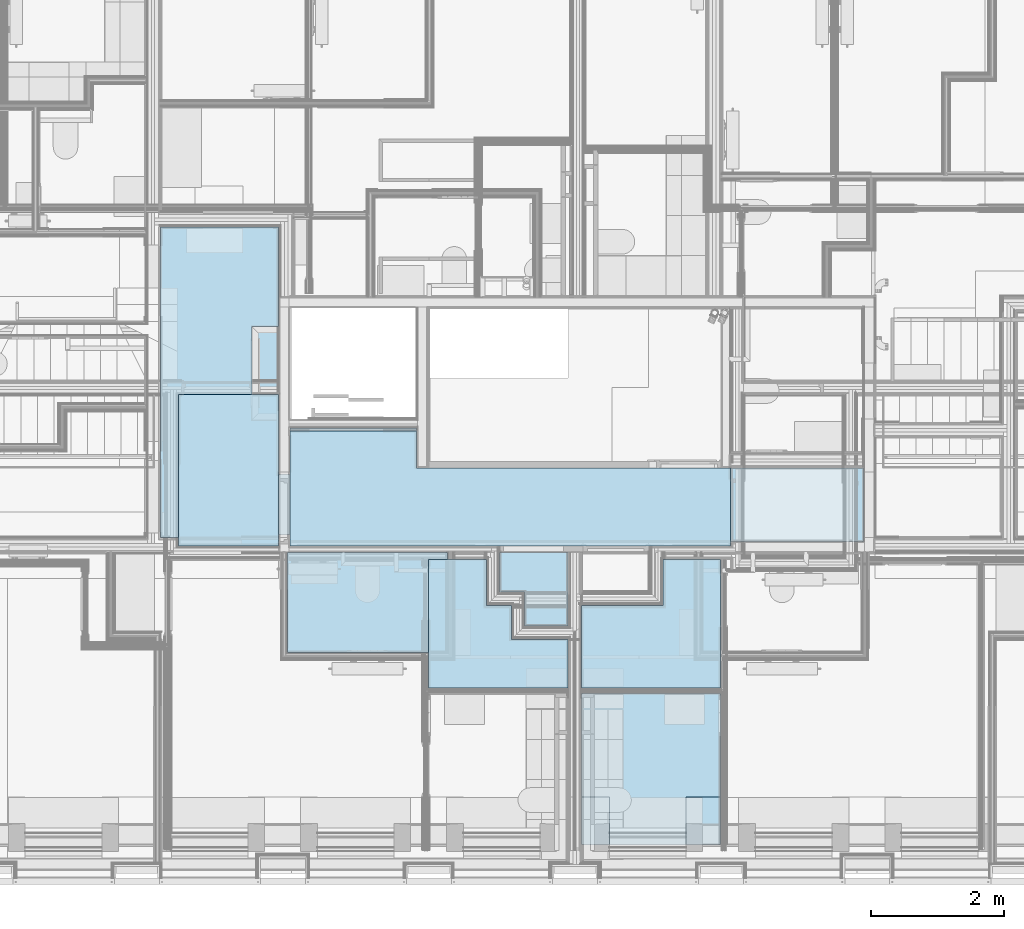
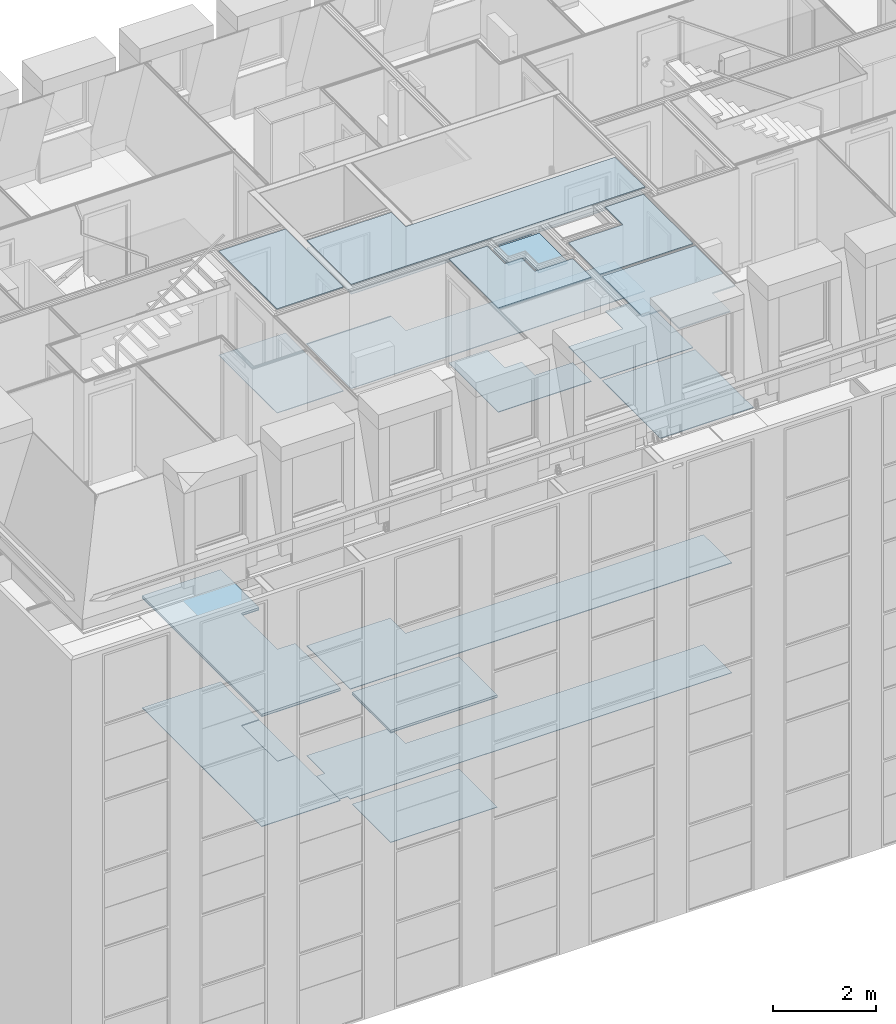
# One storey, part 71 of 169: 33 slabs.
"""IFC2X3 building model written with IfcOpenShell, lengths in metres."""

from ifc_helpers import new_model, entity, si_unit, converted_unit, derived_unit, money_unit, direction, frame, origin_with_axes, place, context, subcontext, project, spatial, faceted_brep, material, type_object, element, save


model = new_model("IFC2X3")

# Units and contexts
model_context = context("Model", 3, precision=1e-05, world=origin_with_axes(), true_north=direction((0.0, 1.0)))
body_context = subcontext(model_context, "Body", "Model", "MODEL_VIEW", scale=1.0)
ifc_project = project(units=[si_unit("LENGTHUNIT", "METRE"), si_unit("AREAUNIT", "SQUARE_METRE"), si_unit("VOLUMEUNIT", "CUBIC_METRE"), si_unit("ABSORBEDDOSEUNIT", "GRAY"), si_unit("AMOUNTOFSUBSTANCEUNIT", "MOLE"), si_unit("DOSEEQUIVALENTUNIT", "SIEVERT"), si_unit("ELECTRICCAPACITANCEUNIT", "FARAD"), si_unit("ELECTRICCHARGEUNIT", "COULOMB"), si_unit("ELECTRICCONDUCTANCEUNIT", "SIEMENS"), si_unit("ELECTRICCURRENTUNIT", "AMPERE"), si_unit("ELECTRICRESISTANCEUNIT", "OHM"), si_unit("ELECTRICVOLTAGEUNIT", "VOLT"), si_unit("ENERGYUNIT", "JOULE"), si_unit("FORCEUNIT", "NEWTON"), si_unit("FREQUENCYUNIT", "HERTZ"), si_unit("ILLUMINANCEUNIT", "LUX"), si_unit("INDUCTANCEUNIT", "HENRY"), si_unit("LUMINOUSFLUXUNIT", "LUMEN"), si_unit("LUMINOUSINTENSITYUNIT", "CANDELA"), si_unit("MAGNETICFLUXDENSITYUNIT", "TESLA"), si_unit("MAGNETICFLUXUNIT", "WEBER"), si_unit("MASSUNIT", "GRAM"), converted_unit("PLANEANGLEUNIT", "degree", entity("IfcReal", 0.0174532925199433), si_unit("PLANEANGLEUNIT", "RADIAN"), dimensions=[0, 0, 0, 0, 0, 0, 0]), si_unit("POWERUNIT", "WATT"), si_unit("PRESSUREUNIT", "PASCAL"), si_unit("RADIOACTIVITYUNIT", "BECQUEREL"), si_unit("SOLIDANGLEUNIT", "STERADIAN"), si_unit("THERMODYNAMICTEMPERATUREUNIT", "KELVIN"), si_unit("TIMEUNIT", "SECOND"), derived_unit("ACCELERATIONUNIT", [(si_unit("LENGTHUNIT", "METRE"), 1), (si_unit("TIMEUNIT", "SECOND"), -2)]), derived_unit("ANGULARVELOCITYUNIT", [(converted_unit("PLANEANGLEUNIT", "degree", entity("IfcReal", 0.0174532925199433), si_unit("PLANEANGLEUNIT", "RADIAN"), dimensions=[0, 0, 0, 0, 0, 0, 0]), 1), (si_unit("TIMEUNIT", "SECOND"), -1)]), derived_unit("CURVATUREUNIT", [(converted_unit("PLANEANGLEUNIT", "degree", entity("IfcReal", 0.0174532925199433), si_unit("PLANEANGLEUNIT", "RADIAN"), dimensions=[0, 0, 0, 0, 0, 0, 0]), 1), (si_unit("LENGTHUNIT", "METRE"), -1)]), derived_unit("DYNAMICVISCOSITYUNIT", [(si_unit("PRESSUREUNIT", "PASCAL"), 1), (si_unit("TIMEUNIT", "SECOND"), 1)]), derived_unit("HEATFLUXDENSITYUNIT", [(si_unit("POWERUNIT", "WATT"), 1), (si_unit("LENGTHUNIT", "METRE"), -2)]), derived_unit("HEATINGVALUEUNIT", [(si_unit("ENERGYUNIT", "JOULE"), 1), (si_unit("MASSUNIT", "GRAM"), -1)]), derived_unit("INTEGERCOUNTRATEUNIT", [(si_unit("TIMEUNIT", "SECOND"), -1)]), derived_unit("IONCONCENTRATIONUNIT", [(si_unit("MASSUNIT", "GRAM"), 1), (si_unit("VOLUMEUNIT", "CUBIC_METRE"), -1)]), derived_unit("ISOTHERMALMOISTURECAPACITYUNIT", [(si_unit("VOLUMEUNIT", "CUBIC_METRE"), 1), (si_unit("MASSUNIT", "GRAM"), -1)]), derived_unit("KINEMATICVISCOSITYUNIT", [(si_unit("AREAUNIT", "SQUARE_METRE"), 1), (si_unit("TIMEUNIT", "SECOND"), -1)]), derived_unit("LINEARFORCEUNIT", [(si_unit("FORCEUNIT", "NEWTON"), 1), (si_unit("LENGTHUNIT", "METRE"), -1)]), derived_unit("LINEARMOMENTUNIT", [(si_unit("FORCEUNIT", "NEWTON"), 1), (si_unit("LENGTHUNIT", "METRE"), -1)]), derived_unit("LINEARSTIFFNESSUNIT", [(si_unit("FORCEUNIT", "NEWTON"), 1), (si_unit("LENGTHUNIT", "METRE"), -1)]), derived_unit("LINEARVELOCITYUNIT", [(si_unit("LENGTHUNIT", "METRE"), 1), (si_unit("TIMEUNIT", "SECOND"), -1)]), derived_unit("LUMINOUSINTENSITYDISTRIBUTIONUNIT", [(si_unit("LUMINOUSINTENSITYUNIT", "CANDELA"), 1), (si_unit("LUMINOUSFLUXUNIT", "LUMEN"), -1)]), derived_unit("MASSDENSITYUNIT", [(si_unit("MASSUNIT", "GRAM"), 1), (si_unit("VOLUMEUNIT", "CUBIC_METRE"), -1)]), derived_unit("MASSFLOWRATEUNIT", [(si_unit("MASSUNIT", "GRAM"), 1), (si_unit("TIMEUNIT", "SECOND"), -1)]), derived_unit("MASSPERLENGTHUNIT", [(si_unit("MASSUNIT", "GRAM"), 1), (si_unit("LENGTHUNIT", "METRE"), -1)]), derived_unit("MODULUSOFELASTICITYUNIT", [(si_unit("FORCEUNIT", "NEWTON"), 1), (si_unit("AREAUNIT", "SQUARE_METRE"), -1)]), derived_unit("MODULUSOFLINEARSUBGRADEREACTIONUNIT", [(si_unit("FORCEUNIT", "NEWTON"), 1), (si_unit("LENGTHUNIT", "METRE"), -2)]), derived_unit("MODULUSOFROTATIONALSUBGRADEREACTIONUNIT", [(si_unit("FORCEUNIT", "NEWTON"), 1), (si_unit("LENGTHUNIT", "METRE"), 1)]), derived_unit("MODULUSOFSUBGRADEREACTIONUNIT", [(si_unit("FORCEUNIT", "NEWTON"), 1), (si_unit("VOLUMEUNIT", "CUBIC_METRE"), -1)]), derived_unit("MOISTUREDIFFUSIVITYUNIT", [(si_unit("VOLUMEUNIT", "CUBIC_METRE"), 1), (si_unit("TIMEUNIT", "SECOND"), -1)]), derived_unit("MOLECULARWEIGHTUNIT", [(si_unit("MASSUNIT", "GRAM"), 1), (si_unit("AMOUNTOFSUBSTANCEUNIT", "MOLE"), -1)]), derived_unit("PLANARFORCEUNIT", [(si_unit("FORCEUNIT", "NEWTON"), 1), (si_unit("LENGTHUNIT", "METRE"), -2)]), derived_unit("ROTATIONALFREQUENCYUNIT", [(si_unit("TIMEUNIT", "SECOND"), -1)]), derived_unit("ROTATIONALMASSUNIT", [(si_unit("MASSUNIT", "GRAM"), 1), (si_unit("LENGTHUNIT", "METRE"), 2)]), derived_unit("ROTATIONALSTIFFNESSUNIT", [(si_unit("FORCEUNIT", "NEWTON"), 1), (si_unit("LENGTHUNIT", "METRE"), 1), (converted_unit("PLANEANGLEUNIT", "degree", entity("IfcReal", 0.0174532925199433), si_unit("PLANEANGLEUNIT", "RADIAN"), dimensions=[0, 0, 0, 0, 0, 0, 0]), -1)]), derived_unit("SECTIONAREAINTEGRALUNIT", [(si_unit("LENGTHUNIT", "METRE"), 5)]), derived_unit("SECTIONMODULUSUNIT", [(si_unit("LENGTHUNIT", "METRE"), 3)]), derived_unit("SHEARMODULUSUNIT", [(si_unit("FORCEUNIT", "NEWTON"), 1), (si_unit("AREAUNIT", "SQUARE_METRE"), -1)]), derived_unit("SOUNDPOWERUNIT", [(si_unit("ENERGYUNIT", "JOULE"), 1), (si_unit("TIMEUNIT", "SECOND"), -1)]), derived_unit("SPECIFICHEATCAPACITYUNIT", [(si_unit("FORCEUNIT", "NEWTON"), 1), (si_unit("MASSUNIT", "GRAM"), -1), (si_unit("THERMODYNAMICTEMPERATUREUNIT", "KELVIN"), -1)]), derived_unit("TEMPERATUREGRADIENTUNIT", [(si_unit("THERMODYNAMICTEMPERATUREUNIT", "KELVIN"), 1), (si_unit("LENGTHUNIT", "METRE"), -1)]), derived_unit("THERMALADMITTANCEUNIT", [(si_unit("POWERUNIT", "WATT"), 1), (si_unit("AREAUNIT", "SQUARE_METRE"), -1), (si_unit("THERMODYNAMICTEMPERATUREUNIT", "KELVIN"), -1)]), derived_unit("THERMALCONDUCTANCEUNIT", [(si_unit("POWERUNIT", "WATT"), 1), (si_unit("LENGTHUNIT", "METRE"), -1), (si_unit("THERMODYNAMICTEMPERATUREUNIT", "KELVIN"), -1)]), derived_unit("THERMALEXPANSIONCOEFFICIENTUNIT", [(si_unit("THERMODYNAMICTEMPERATUREUNIT", "KELVIN"), -1)]), derived_unit("THERMALRESISTANCEUNIT", [(si_unit("AREAUNIT", "SQUARE_METRE"), 1), (si_unit("POWERUNIT", "WATT"), -1)]), derived_unit("THERMALTRANSMITTANCEUNIT", [(si_unit("POWERUNIT", "WATT"), 1), (si_unit("AREAUNIT", "SQUARE_METRE"), -1), (si_unit("THERMODYNAMICTEMPERATUREUNIT", "KELVIN"), -1)]), derived_unit("TORQUEUNIT", [(si_unit("FORCEUNIT", "NEWTON"), 1), (si_unit("LENGTHUNIT", "METRE"), 1)]), derived_unit("VAPORPERMEABILITYUNIT", [(si_unit("MASSUNIT", "GRAM"), 1), (si_unit("TIMEUNIT", "SECOND"), -1)]), derived_unit("VOLUMETRICFLOWRATEUNIT", [(si_unit("VOLUMEUNIT", "CUBIC_METRE"), 1), (si_unit("TIMEUNIT", "SECOND"), -1)]), derived_unit("WARPINGCONSTANTUNIT", [(si_unit("LENGTHUNIT", "METRE"), 6)]), derived_unit("WARPINGMOMENTUNIT", [(si_unit("FORCEUNIT", "NEWTON"), 1), (si_unit("LENGTHUNIT", "METRE"), 2)]), money_unit("GBP")], contexts=[model_context])

# Site, building, storey
site_placement = place(None, origin_with_axes())
site = spatial("IfcSite", under=ifc_project, at=site_placement, Name="Site", CompositionType="ELEMENT")
building_placement = place(site_placement, origin_with_axes())
building = spatial("IfcBuilding", under=site, at=building_placement, Name="Building01", CompositionType="ELEMENT")
storey_placement = place(building_placement, frame((0.0, 0.0, 5.15), z_axis=(0.0, 0.0, 1.0), x_axis=(1.0, 0.0, 0.0)))
storey = spatial("IfcBuildingStorey", under=building, at=storey_placement, Name="1F", CompositionType="ELEMENT", Elevation=5.15)

# Slabs
ifc_material_1 = material(Name="A_BSUK_CeilingSoffitFinishes_Suspended")
slab_type_1 = type_object("IfcSlabType", Name="A-FloorsSlabs A_BSUK_Slabs", PredefinedType="FLOOR")
placement = place(storey_placement, frame((0.0, 0.0, -5.15), z_axis=(0.0, 0.0, 1.0), x_axis=(1.0, 0.0, 0.0)))
element("IfcSlab", 1, at=placement, inside=storey, type_object=slab_type_1, material=ifc_material_1, Name="A-FloorsSlabs A_BSUK_Slabs", ObjectType="CompoundSlabLeaf", context=body_context, shape_type="Brep", body=[
    faceted_brep([(7.289669, 5.205, 7.765), (7.289669, 5.205, 7.78), (7.289669, 9.862704, 7.78), (7.289669, 9.862704, 7.765), (9.06, 5.205, 7.765), (9.06, 5.205, 7.78), (9.06, 6.968405, 7.765), (9.06, 6.968405, 7.78), (8.658, 6.968405, 7.765), (8.658, 6.968405, 7.78), (8.658, 8.372405, 7.765), (8.658, 8.372405, 7.78), (9.06, 8.372405, 7.765), (9.06, 8.372405, 7.78), (9.06, 8.665, 7.765), (9.06, 8.665, 7.78), (9.06, 9.862704, 7.765), (9.06, 9.862704, 7.78)], [[[0, 1, 2, 3]], [[4, 5, 1, 0]], [[6, 7, 5, 4]], [[8, 9, 7, 6]], [[10, 11, 9, 8]], [[12, 13, 11, 10]], [[14, 15, 13, 12]], [[16, 17, 15, 14]], [[3, 2, 17, 16]], [[1, 5, 7, 9, 11, 13, 15, 17, 2]], [[3, 16, 14, 12, 10, 8, 6, 4, 0]]]),
])
element("IfcSlab", 2, at=placement, inside=storey, type_object=slab_type_1, material=ifc_material_1, Name="A-FloorsSlabs A_BSUK_Slabs", ObjectType="CompoundSlabLeaf", context=body_context, shape_type="Brep", body=[
    faceted_brep([(9.25, 5.15, 7.765), (9.25, 5.15, 7.78), (9.25, 6.85, 7.78), (9.25, 6.85, 7.765), (17.83, 5.15, 7.765), (17.83, 5.15, 7.78), (17.83, 6.25, 7.765), (17.83, 6.25, 7.78), (15.679803, 6.25, 7.765), (15.679803, 6.25, 7.78), (11.13, 6.25, 7.765), (11.13, 6.25, 7.78), (11.13, 6.85, 7.765), (11.13, 6.85, 7.78)], [[[0, 1, 2, 3]], [[4, 5, 1, 0]], [[6, 7, 5, 4]], [[8, 9, 7, 6]], [[10, 11, 9, 8]], [[12, 13, 11, 10]], [[3, 2, 13, 12]], [[1, 5, 7, 9, 11, 13, 2]], [[3, 12, 10, 8, 6, 4, 0]]]),
])
ifc_material_2 = material(Name="A_BSUK_ExpandedPolystyreneBoards")
element("IfcSlab", 3, at=placement, inside=storey, type_object=slab_type_1, material=ifc_material_2, Name="A-FloorsSlabs A_BSUK_Slabs", ObjectType="CompoundSlabLeaf", context=body_context, shape_type="Brep", body=[
    faceted_brep([(7.289669, 5.205, 5.15), (7.289669, 5.205, 5.153), (7.289669, 9.862704, 5.153), (7.289669, 9.862704, 5.15), (9.06, 5.205, 5.15), (9.06, 5.205, 5.153), (9.06, 6.607081, 5.15), (9.06, 6.607081, 5.153), (9.06, 8.372405, 5.15), (9.06, 8.372405, 5.153), (9.06, 8.9, 5.15), (9.06, 8.9, 5.153), (9.06, 9.862704, 5.15), (9.06, 9.862704, 5.153)], [[[0, 1, 2, 3]], [[4, 5, 1, 0]], [[6, 7, 5, 4]], [[8, 9, 7, 6]], [[10, 11, 9, 8]], [[12, 13, 11, 10]], [[3, 2, 13, 12]], [[1, 5, 7, 9, 11, 13, 2]], [[3, 12, 10, 8, 6, 4, 0]]]),
])
ifc_material_3 = material(Name="A_BSUK_Ceramic_FloorTiles")
element("IfcSlab", 4, at=placement, inside=storey, type_object=slab_type_1, material=ifc_material_3, Name="A-FloorsSlabs A_BSUK_Slabs", ObjectType="CompoundSlabLeaf", context=body_context, shape_type="Brep", body=[
    faceted_brep([(9.192536, 4.98, 5.153), (9.192536, 4.98, 5.165), (11.592536, 4.98, 5.165), (11.592536, 4.98, 5.153), (9.192536, 3.48, 5.153), (9.192536, 3.48, 5.165), (11.592536, 3.48, 5.153), (11.592536, 3.48, 5.165), (11.592536, 4.259428, 5.153), (11.592536, 4.259428, 5.165)], [[[0, 1, 2, 3]], [[4, 5, 1, 0]], [[6, 7, 5, 4]], [[8, 9, 7, 6]], [[3, 2, 9, 8]], [[1, 5, 7, 9, 2]], [[3, 8, 6, 4, 0]]]),
])
ifc_material_4 = material(Name="A_BSUK_Carpet-Pile")
element("IfcSlab", 5, at=placement, inside=storey, type_object=slab_type_1, material=ifc_material_4, Name="A-FloorsSlabs A_BSUK_Slabs", ObjectType="CompoundSlabLeaf", context=body_context, shape_type="Brep", body=[
    faceted_brep([(7.289669, 9.862704, 5.153), (7.289669, 9.862704, 5.165), (9.06, 9.862704, 5.165), (9.06, 9.862704, 5.153), (7.289669, 5.205, 5.153), (7.289669, 5.205, 5.165), (9.06, 5.205, 5.153), (9.06, 5.205, 5.165), (9.06, 6.968405, 5.153), (9.06, 6.968405, 5.165), (8.658, 6.968405, 5.153), (8.658, 6.968405, 5.165), (8.658, 7.610847, 5.153), (8.658, 7.610847, 5.165), (8.658, 8.372405, 5.153), (8.658, 8.372405, 5.165), (9.06, 8.372405, 5.153), (9.06, 8.372405, 5.165)], [[[0, 1, 2, 3]], [[4, 5, 1, 0]], [[6, 7, 5, 4]], [[8, 9, 7, 6]], [[10, 11, 9, 8]], [[12, 13, 11, 10]], [[14, 15, 13, 12]], [[16, 17, 15, 14]], [[3, 2, 17, 16]], [[1, 5, 7, 9, 11, 13, 15, 17, 2]], [[3, 16, 14, 12, 10, 8, 6, 4, 0]]]),
])
element("IfcSlab", 6, at=placement, inside=storey, type_object=slab_type_1, material=ifc_material_4, Name="A-FloorsSlabs A_BSUK_Slabs", ObjectType="CompoundSlabLeaf", context=body_context, shape_type="Brep", body=[
    faceted_brep([(9.06, 5.25, 5.153), (9.06, 5.25, 5.165), (9.06, 6.15, 5.165), (9.06, 6.15, 5.153), (9.25, 5.25, 5.153), (9.25, 5.25, 5.165), (9.25, 5.15, 5.153), (9.25, 5.15, 5.165), (17.83, 5.15, 5.153), (17.83, 5.15, 5.165), (17.83, 6.25, 5.153), (17.83, 6.25, 5.165), (14.658, 6.25, 5.153), (14.658, 6.25, 5.165), (11.13, 6.25, 5.153), (11.13, 6.25, 5.165), (11.13, 6.85, 5.153), (11.13, 6.85, 5.165), (9.25, 6.85, 5.153), (9.25, 6.85, 5.165), (9.25, 6.15, 5.153), (9.25, 6.15, 5.165)], [[[0, 1, 2, 3]], [[4, 5, 1, 0]], [[6, 7, 5, 4]], [[8, 9, 7, 6]], [[10, 11, 9, 8]], [[12, 13, 11, 10]], [[14, 15, 13, 12]], [[16, 17, 15, 14]], [[18, 19, 17, 16]], [[20, 21, 19, 18]], [[3, 2, 21, 20]], [[1, 5, 7, 9, 11, 13, 15, 17, 19, 21, 2]], [[3, 20, 18, 16, 14, 12, 10, 8, 6, 4, 0]]]),
])
element("IfcSlab", 7, at=placement, inside=storey, type_object=slab_type_1, material=ifc_material_1, Name="A-FloorsSlabs A_BSUK_Slabs", ObjectType="CompoundSlabLeaf", context=body_context, shape_type="Brep", body=[
    faceted_brep([(9.192536, 4.98, 7.765), (9.192536, 4.98, 7.78), (11.592536, 4.98, 7.78), (11.592536, 4.98, 7.765), (9.192536, 3.48, 7.765), (9.192536, 3.48, 7.78), (11.592536, 3.48, 7.765), (11.592536, 3.48, 7.78), (11.592536, 4.259428, 7.765), (11.592536, 4.259428, 7.78)], [[[0, 1, 2, 3]], [[4, 5, 1, 0]], [[6, 7, 5, 4]], [[8, 9, 7, 6]], [[3, 2, 9, 8]], [[1, 5, 7, 9, 2]], [[3, 8, 6, 4, 0]]]),
])
element("IfcSlab", 8, at=placement, inside=storey, type_object=slab_type_1, material=ifc_material_1, Name="A-FloorsSlabs A_BSUK_Slabs", ObjectType="CompoundSlabLeaf", context=body_context, shape_type="Brep", body=[
    faceted_brep([(7.56, 5.08, 17.423), (7.56, 5.08, 17.438), (7.56, 7.349939, 17.438), (7.56, 7.349939, 17.423), (9.06, 5.08, 17.423), (9.06, 5.08, 17.438), (9.06, 7.349939, 17.423), (9.06, 7.349939, 17.438)], [[[0, 1, 2, 3]], [[4, 5, 1, 0]], [[6, 7, 5, 4]], [[3, 2, 7, 6]], [[1, 5, 7, 2]], [[3, 6, 4, 0]]]),
])
element("IfcSlab", 9, at=placement, inside=storey, type_object=slab_type_1, material=ifc_material_1, Name="A-FloorsSlabs A_BSUK_Slabs", ObjectType="CompoundSlabLeaf", context=body_context, shape_type="Brep", body=[
    faceted_brep([(9.23, 5.08, 17.423), (9.23, 5.08, 17.438), (9.23, 6.807, 17.438), (9.23, 6.807, 17.423), (15.83844, 5.08, 17.423), (15.83844, 5.08, 17.438), (15.83844, 6.25, 17.423), (15.83844, 6.25, 17.438), (11.13, 6.25, 17.423), (11.13, 6.25, 17.438), (11.13, 6.807, 17.423), (11.13, 6.807, 17.438)], [[[0, 1, 2, 3]], [[4, 5, 1, 0]], [[6, 7, 5, 4]], [[8, 9, 7, 6]], [[10, 11, 9, 8]], [[3, 2, 11, 10]], [[1, 5, 7, 9, 11, 2]], [[3, 10, 8, 6, 4, 0]]]),
])
element("IfcSlab", 10, at=placement, inside=storey, type_object=slab_type_1, material=ifc_material_1, Name="A-FloorsSlabs A_BSUK_Slabs", ObjectType="CompoundSlabLeaf", context=body_context, shape_type="Brep", body=[
    faceted_brep([(13.4, 2.949761, 17.423), (13.4, 2.949761, 17.438), (11.31, 2.949761, 17.438), (11.31, 2.949761, 17.423), (13.4, 3.68, 17.423), (13.4, 3.68, 17.438), (12.55, 3.68, 17.423), (12.55, 3.68, 17.438), (12.55, 4.189428, 17.423), (12.55, 4.189428, 17.438), (12.175, 4.189428, 17.423), (12.175, 4.189428, 17.438), (12.175, 4.88, 17.423), (12.175, 4.88, 17.438), (11.31, 4.88, 17.423), (11.31, 4.88, 17.438)], [[[0, 1, 2, 3]], [[4, 5, 1, 0]], [[6, 7, 5, 4]], [[8, 9, 7, 6]], [[10, 11, 9, 8]], [[12, 13, 11, 10]], [[14, 15, 13, 12]], [[3, 2, 15, 14]], [[1, 5, 7, 9, 11, 13, 15, 2]], [[3, 14, 12, 10, 8, 6, 4, 0]]]),
])
element("IfcSlab", 11, at=placement, inside=storey, type_object=slab_type_1, material=ifc_material_1, Name="A-FloorsSlabs A_BSUK_Slabs", ObjectType="CompoundSlabLeaf", context=body_context, shape_type="Brep", body=[
    faceted_brep([(13.6, 2.949761, 17.423), (13.6, 2.949761, 17.438), (13.6, 4.189428, 17.438), (13.6, 4.189428, 17.423), (15.69, 2.949761, 17.423), (15.69, 2.949761, 17.438), (15.69, 4.88, 17.423), (15.69, 4.88, 17.438), (14.825, 4.88, 17.423), (14.825, 4.88, 17.438), (14.825, 4.189428, 17.423), (14.825, 4.189428, 17.438)], [[[0, 1, 2, 3]], [[4, 5, 1, 0]], [[6, 7, 5, 4]], [[8, 9, 7, 6]], [[10, 11, 9, 8]], [[3, 2, 11, 10]], [[1, 5, 7, 9, 11, 2]], [[3, 10, 8, 6, 4, 0]]]),
])
element("IfcSlab", 12, at=placement, inside=storey, type_object=slab_type_1, material=ifc_material_1, Name="A-FloorsSlabs A_BSUK_Slabs", ObjectType="CompoundSlabLeaf", context=body_context, shape_type="Brep", body=[
    faceted_brep([(13.6, 1.313291, 17.423), (13.6, 1.313291, 17.438), (13.6, 2.869761, 17.438), (13.6, 2.869761, 17.423), (14.020024, 1.313291, 17.423), (14.020024, 1.313291, 17.438), (14.020024, 0.599939, 17.423), (14.020024, 0.599939, 17.438), (15.170024, 0.599939, 17.423), (15.170024, 0.599939, 17.438), (15.170024, 1.312402, 17.423), (15.170024, 1.312402, 17.438), (15.69, 1.312402, 17.423), (15.69, 1.312402, 17.438), (15.69, 2.869761, 17.423), (15.69, 2.869761, 17.438)], [[[0, 1, 2, 3]], [[4, 5, 1, 0]], [[6, 7, 5, 4]], [[8, 9, 7, 6]], [[10, 11, 9, 8]], [[12, 13, 11, 10]], [[14, 15, 13, 12]], [[3, 2, 15, 14]], [[1, 5, 7, 9, 11, 13, 15, 2]], [[3, 14, 12, 10, 8, 6, 4, 0]]]),
])
element("IfcSlab", 13, at=placement, inside=storey, type_object=slab_type_1, material=ifc_material_2, Name="A-FloorsSlabs A_BSUK_Slabs", ObjectType="CompoundSlabLeaf", context=body_context, shape_type="Brep", body=[
    faceted_brep([(7.56, 5.08, 14.965), (7.56, 5.08, 14.968), (7.56, 7.349939, 14.968), (7.56, 7.349939, 14.965), (9.06, 5.08, 14.965), (9.06, 5.08, 14.968), (9.06, 7.349939, 14.965), (9.06, 7.349939, 14.968)], [[[0, 1, 2, 3]], [[4, 5, 1, 0]], [[6, 7, 5, 4]], [[3, 2, 7, 6]], [[1, 5, 7, 2]], [[3, 6, 4, 0]]]),
])
element("IfcSlab", 14, at=placement, inside=storey, type_object=slab_type_1, material=ifc_material_2, Name="A-FloorsSlabs A_BSUK_Slabs", ObjectType="CompoundSlabLeaf", context=body_context, shape_type="Brep", body=[
    faceted_brep([(9.23, 5.08, 14.965), (9.23, 5.08, 14.968), (9.23, 6.85, 14.968), (9.23, 6.85, 14.965), (15.83844, 5.08, 14.965), (15.83844, 5.08, 14.968), (15.83844, 6.25, 14.965), (15.83844, 6.25, 14.968), (11.13, 6.25, 14.965), (11.13, 6.25, 14.968), (11.13, 6.85, 14.965), (11.13, 6.85, 14.968)], [[[0, 1, 2, 3]], [[4, 5, 1, 0]], [[6, 7, 5, 4]], [[8, 9, 7, 6]], [[10, 11, 9, 8]], [[3, 2, 11, 10]], [[1, 5, 7, 9, 11, 2]], [[3, 10, 8, 6, 4, 0]]]),
])
element("IfcSlab", 15, at=placement, inside=storey, type_object=slab_type_1, material=ifc_material_2, Name="A-FloorsSlabs A_BSUK_Slabs", ObjectType="CompoundSlabLeaf", context=body_context, shape_type="Brep", body=[
    faceted_brep([(13.4, 2.949761, 14.965), (13.4, 2.949761, 14.968), (11.31, 2.949761, 14.968), (11.31, 2.949761, 14.965), (13.4, 3.68, 14.965), (13.4, 3.68, 14.968), (12.55, 3.68, 14.965), (12.55, 3.68, 14.968), (12.55, 4.189428, 14.965), (12.55, 4.189428, 14.968), (12.175, 4.189428, 14.965), (12.175, 4.189428, 14.968), (12.175, 4.88, 14.965), (12.175, 4.88, 14.968), (11.31, 4.88, 14.965), (11.31, 4.88, 14.968)], [[[0, 1, 2, 3]], [[4, 5, 1, 0]], [[6, 7, 5, 4]], [[8, 9, 7, 6]], [[10, 11, 9, 8]], [[12, 13, 11, 10]], [[14, 15, 13, 12]], [[3, 2, 15, 14]], [[1, 5, 7, 9, 11, 13, 15, 2]], [[3, 14, 12, 10, 8, 6, 4, 0]]]),
])
element("IfcSlab", 16, at=placement, inside=storey, type_object=slab_type_1, material=ifc_material_2, Name="A-FloorsSlabs A_BSUK_Slabs", ObjectType="CompoundSlabLeaf", context=body_context, shape_type="Brep", body=[
    faceted_brep([(13.6, 2.949761, 14.965), (13.6, 2.949761, 14.968), (13.6, 4.189428, 14.968), (13.6, 4.189428, 14.965), (15.69, 2.949761, 14.965), (15.69, 2.949761, 14.968), (15.69, 4.88, 14.965), (15.69, 4.88, 14.968), (14.825, 4.88, 14.965), (14.825, 4.88, 14.968), (14.825, 4.189428, 14.965), (14.825, 4.189428, 14.968)], [[[0, 1, 2, 3]], [[4, 5, 1, 0]], [[6, 7, 5, 4]], [[8, 9, 7, 6]], [[10, 11, 9, 8]], [[3, 2, 11, 10]], [[1, 5, 7, 9, 11, 2]], [[3, 10, 8, 6, 4, 0]]]),
])
element("IfcSlab", 17, at=placement, inside=storey, type_object=slab_type_1, material=ifc_material_2, Name="A-FloorsSlabs A_BSUK_Slabs", ObjectType="CompoundSlabLeaf", context=body_context, shape_type="Brep", body=[
    faceted_brep([(13.6, 0.6038, 14.965), (13.6, 0.6038, 14.968), (13.6, 2.869761, 14.968), (13.6, 2.869761, 14.965), (14.020024, 0.6038, 14.965), (14.020024, 0.6038, 14.968), (15.170024, 0.6038, 14.965), (15.170024, 0.6038, 14.968), (15.69, 0.6038, 14.965), (15.69, 0.6038, 14.968), (15.69, 2.869761, 14.965), (15.69, 2.869761, 14.968)], [[[0, 1, 2, 3]], [[4, 5, 1, 0]], [[6, 7, 5, 4]], [[8, 9, 7, 6]], [[10, 11, 9, 8]], [[3, 2, 11, 10]], [[1, 5, 7, 9, 11, 2]], [[3, 10, 8, 6, 4, 0]]]),
])
element("IfcSlab", 18, at=placement, inside=storey, type_object=slab_type_1, material=ifc_material_1, Name="A-FloorsSlabs A_BSUK_Slabs", ObjectType="CompoundSlabLeaf", context=body_context, shape_type="Brep", body=[
    faceted_brep([(7.56, 5.08, 17.438), (7.56, 5.08, 17.453), (7.56, 7.349939, 17.453), (7.56, 7.349939, 17.438), (9.06, 5.08, 17.438), (9.06, 5.08, 17.453), (9.06, 7.349939, 17.438), (9.06, 7.349939, 17.453)], [[[0, 1, 2, 3]], [[4, 5, 1, 0]], [[6, 7, 5, 4]], [[3, 2, 7, 6]], [[1, 5, 7, 2]], [[3, 6, 4, 0]]]),
])
element("IfcSlab", 19, at=placement, inside=storey, type_object=slab_type_1, material=ifc_material_1, Name="A-FloorsSlabs A_BSUK_Slabs", ObjectType="CompoundSlabLeaf", context=body_context, shape_type="Brep", body=[
    faceted_brep([(9.23, 5.08, 17.438), (9.23, 5.08, 17.453), (9.23, 6.807, 17.453), (9.23, 6.807, 17.438), (15.83844, 5.08, 17.438), (15.83844, 5.08, 17.453), (15.83844, 6.25, 17.438), (15.83844, 6.25, 17.453), (11.13, 6.25, 17.438), (11.13, 6.25, 17.453), (11.13, 6.807, 17.438), (11.13, 6.807, 17.453)], [[[0, 1, 2, 3]], [[4, 5, 1, 0]], [[6, 7, 5, 4]], [[8, 9, 7, 6]], [[10, 11, 9, 8]], [[3, 2, 11, 10]], [[1, 5, 7, 9, 11, 2]], [[3, 10, 8, 6, 4, 0]]]),
])
element("IfcSlab", 20, at=placement, inside=storey, type_object=slab_type_1, material=ifc_material_1, Name="A-FloorsSlabs A_BSUK_Slabs", ObjectType="CompoundSlabLeaf", context=body_context, shape_type="Brep", body=[
    faceted_brep([(13.4, 2.949761, 17.438), (13.4, 2.949761, 17.453), (11.31, 2.949761, 17.453), (11.31, 2.949761, 17.438), (13.4, 3.68, 17.438), (13.4, 3.68, 17.453), (12.55, 3.68, 17.438), (12.55, 3.68, 17.453), (12.55, 4.189428, 17.438), (12.55, 4.189428, 17.453), (12.175, 4.189428, 17.438), (12.175, 4.189428, 17.453), (12.175, 4.88, 17.438), (12.175, 4.88, 17.453), (11.31, 4.88, 17.438), (11.31, 4.88, 17.453)], [[[0, 1, 2, 3]], [[4, 5, 1, 0]], [[6, 7, 5, 4]], [[8, 9, 7, 6]], [[10, 11, 9, 8]], [[12, 13, 11, 10]], [[14, 15, 13, 12]], [[3, 2, 15, 14]], [[1, 5, 7, 9, 11, 13, 15, 2]], [[3, 14, 12, 10, 8, 6, 4, 0]]]),
])
element("IfcSlab", 21, at=placement, inside=storey, type_object=slab_type_1, material=ifc_material_1, Name="A-FloorsSlabs A_BSUK_Slabs", ObjectType="CompoundSlabLeaf", context=body_context, shape_type="Brep", body=[
    faceted_brep([(13.6, 2.949761, 17.438), (13.6, 2.949761, 17.453), (13.6, 4.189428, 17.453), (13.6, 4.189428, 17.438), (15.69, 2.949761, 17.438), (15.69, 2.949761, 17.453), (15.69, 4.88, 17.438), (15.69, 4.88, 17.453), (14.825, 4.88, 17.438), (14.825, 4.88, 17.453), (14.825, 4.189428, 17.438), (14.825, 4.189428, 17.453)], [[[0, 1, 2, 3]], [[4, 5, 1, 0]], [[6, 7, 5, 4]], [[8, 9, 7, 6]], [[10, 11, 9, 8]], [[3, 2, 11, 10]], [[1, 5, 7, 9, 11, 2]], [[3, 10, 8, 6, 4, 0]]]),
])
element("IfcSlab", 22, at=placement, inside=storey, type_object=slab_type_1, material=ifc_material_1, Name="A-FloorsSlabs A_BSUK_Slabs", ObjectType="CompoundSlabLeaf", context=body_context, shape_type="Brep", body=[
    faceted_brep([(13.6, 1.313291, 17.438), (13.6, 1.313291, 17.453), (13.6, 2.869761, 17.453), (13.6, 2.869761, 17.438), (14.020024, 1.313291, 17.438), (14.020024, 1.313291, 17.453), (14.020024, 0.599939, 17.438), (14.020024, 0.599939, 17.453), (15.170024, 0.599939, 17.438), (15.170024, 0.599939, 17.453), (15.170024, 1.312402, 17.438), (15.170024, 1.312402, 17.453), (15.69, 1.312402, 17.438), (15.69, 1.312402, 17.453), (15.69, 2.869761, 17.438), (15.69, 2.869761, 17.453)], [[[0, 1, 2, 3]], [[4, 5, 1, 0]], [[6, 7, 5, 4]], [[8, 9, 7, 6]], [[10, 11, 9, 8]], [[12, 13, 11, 10]], [[14, 15, 13, 12]], [[3, 2, 15, 14]], [[1, 5, 7, 9, 11, 13, 15, 2]], [[3, 14, 12, 10, 8, 6, 4, 0]]]),
])
element("IfcSlab", 23, at=placement, inside=storey, type_object=slab_type_1, material=ifc_material_1, Name="A-FloorsSlabs A_BSUK_Slabs", ObjectType="CompoundSlabLeaf", context=body_context, shape_type="Brep", body=[
    faceted_brep([(9.23, 5.08, 17.208), (9.23, 5.08, 17.223), (9.23, 6.807, 17.223), (9.23, 6.807, 17.208), (15.83844, 5.08, 17.208), (15.83844, 5.08, 17.223), (15.83844, 6.25, 17.208), (15.83844, 6.25, 17.223), (11.13, 6.25, 17.208), (11.13, 6.25, 17.223), (11.13, 6.807, 17.208), (11.13, 6.807, 17.223)], [[[0, 1, 2, 3]], [[4, 5, 1, 0]], [[6, 7, 5, 4]], [[8, 9, 7, 6]], [[10, 11, 9, 8]], [[3, 2, 11, 10]], [[1, 5, 7, 9, 11, 2]], [[3, 10, 8, 6, 4, 0]]]),
])
element("IfcSlab", 24, at=placement, inside=storey, type_object=slab_type_1, material=ifc_material_1, Name="A-FloorsSlabs A_BSUK_Slabs", ObjectType="CompoundSlabLeaf", context=body_context, shape_type="Brep", body=[
    faceted_brep([(13.4, 3.88, 17.208), (13.4, 3.88, 17.223), (12.75, 3.88, 17.223), (12.75, 3.88, 17.208), (13.4, 4.98, 17.208), (13.4, 4.98, 17.223), (12.375, 4.98, 17.208), (12.375, 4.98, 17.223), (12.375, 4.389428, 17.208), (12.375, 4.389428, 17.223), (12.75, 4.389428, 17.208), (12.75, 4.389428, 17.223)], [[[0, 1, 2, 3]], [[4, 5, 1, 0]], [[6, 7, 5, 4]], [[8, 9, 7, 6]], [[10, 11, 9, 8]], [[3, 2, 11, 10]], [[1, 5, 7, 9, 11, 2]], [[3, 10, 8, 6, 4, 0]]]),
])
slab_type_2 = type_object("IfcSlabType", Name="A-Finishes A_BSUK_Ceramic_FloorTiles", PredefinedType="FLOOR")
element("IfcSlab", 25, at=placement, inside=storey, type_object=slab_type_2, material=ifc_material_3, Name="A-Finishes A_BSUK_Ceramic_FloorTiles", ObjectType="CompoundSlabLeaf", context=body_context, shape_type="Brep", body=[
    faceted_brep([(13.6, 0.6038, 14.968), (13.6, 0.6038, 14.98), (13.6, 2.869761, 14.98), (13.6, 2.869761, 14.968), (14.020024, 0.6038, 14.968), (14.020024, 0.6038, 14.98), (15.170024, 0.6038, 14.968), (15.170024, 0.6038, 14.98), (15.69, 0.6038, 14.968), (15.69, 0.6038, 14.98), (15.69, 2.869761, 14.968), (15.69, 2.869761, 14.98)], [[[0, 1, 2, 3]], [[4, 5, 1, 0]], [[6, 7, 5, 4]], [[8, 9, 7, 6]], [[10, 11, 9, 8]], [[3, 2, 11, 10]], [[1, 5, 7, 9, 11, 2]], [[3, 10, 8, 6, 4, 0]]]),
])
slab_type_3 = type_object("IfcSlabType", Name="A-FloorsSlabs A_BSUK_ExpandedPolystyreneBoards", PredefinedType="FLOOR")
element("IfcSlab", 26, at=placement, inside=storey, type_object=slab_type_3, material=ifc_material_2, Name="A-FloorsSlabs A_BSUK_ExpandedPolystyreneBoards", ObjectType="CompoundSlabLeaf", context=body_context, shape_type="Brep", body=[
    faceted_brep([(9.192536, 4.98, 7.78), (9.192536, 4.98, 7.83), (11.592536, 4.98, 7.83), (11.592536, 4.98, 7.78), (9.192536, 3.48, 7.78), (9.192536, 3.48, 7.83), (11.592536, 3.48, 7.78), (11.592536, 3.48, 7.83), (11.592536, 4.259428, 7.78), (11.592536, 4.259428, 7.83)], [[[0, 1, 2, 3]], [[4, 5, 1, 0]], [[6, 7, 5, 4]], [[8, 9, 7, 6]], [[3, 2, 9, 8]], [[1, 5, 7, 9, 2]], [[3, 8, 6, 4, 0]]]),
])
element("IfcSlab", 27, at=placement, inside=storey, type_object=slab_type_3, material=ifc_material_2, Name="A-FloorsSlabs A_BSUK_ExpandedPolystyreneBoards", ObjectType="CompoundSlabLeaf", context=body_context, shape_type="Brep", body=[
    faceted_brep([(7.289669, 5.205, 7.78), (7.289669, 5.205, 7.83), (7.289669, 9.862704, 7.83), (7.289669, 9.862704, 7.78), (9.06, 5.205, 7.78), (9.06, 5.205, 7.83), (9.06, 6.968405, 7.78), (9.06, 6.968405, 7.83), (8.658, 6.968405, 7.78), (8.658, 6.968405, 7.83), (8.658, 8.372405, 7.78), (8.658, 8.372405, 7.83), (9.06, 8.372405, 7.78), (9.06, 8.372405, 7.83), (9.06, 8.665, 7.78), (9.06, 8.665, 7.83), (9.06, 9.862704, 7.78), (9.06, 9.862704, 7.83)], [[[0, 1, 2, 3]], [[4, 5, 1, 0]], [[6, 7, 5, 4]], [[8, 9, 7, 6]], [[10, 11, 9, 8]], [[12, 13, 11, 10]], [[14, 15, 13, 12]], [[16, 17, 15, 14]], [[3, 2, 17, 16]], [[1, 5, 7, 9, 11, 13, 15, 17, 2]], [[3, 16, 14, 12, 10, 8, 6, 4, 0]]]),
])
element("IfcSlab", 28, at=placement, inside=storey, type_object=slab_type_3, material=ifc_material_2, Name="A-FloorsSlabs A_BSUK_ExpandedPolystyreneBoards", ObjectType="CompoundSlabLeaf", context=body_context, shape_type="Brep", body=[
    faceted_brep([(9.23, 5.08, 17.223), (9.23, 5.08, 17.273), (9.23, 6.807, 17.273), (9.23, 6.807, 17.223), (15.83844, 5.08, 17.223), (15.83844, 5.08, 17.273), (15.83844, 6.25, 17.223), (15.83844, 6.25, 17.273), (11.13, 6.25, 17.223), (11.13, 6.25, 17.273), (11.13, 6.807, 17.223), (11.13, 6.807, 17.273)], [[[0, 1, 2, 3]], [[4, 5, 1, 0]], [[6, 7, 5, 4]], [[8, 9, 7, 6]], [[10, 11, 9, 8]], [[3, 2, 11, 10]], [[1, 5, 7, 9, 11, 2]], [[3, 10, 8, 6, 4, 0]]]),
])
element("IfcSlab", 29, at=placement, inside=storey, type_object=slab_type_3, material=ifc_material_2, Name="A-FloorsSlabs A_BSUK_ExpandedPolystyreneBoards", ObjectType="CompoundSlabLeaf", context=body_context, shape_type="Brep", body=[
    faceted_brep([(13.4, 3.88, 17.223), (13.4, 3.88, 17.273), (12.75, 3.88, 17.273), (12.75, 3.88, 17.223), (13.4, 4.98, 17.223), (13.4, 4.98, 17.273), (12.375, 4.98, 17.223), (12.375, 4.98, 17.273), (12.375, 4.389428, 17.223), (12.375, 4.389428, 17.273), (12.75, 4.389428, 17.223), (12.75, 4.389428, 17.273)], [[[0, 1, 2, 3]], [[4, 5, 1, 0]], [[6, 7, 5, 4]], [[8, 9, 7, 6]], [[10, 11, 9, 8]], [[3, 2, 11, 10]], [[1, 5, 7, 9, 11, 2]], [[3, 10, 8, 6, 4, 0]]]),
])
slab_type_4 = type_object("IfcSlabType", Name="A-Finishes A_BSUK_Carpet-Pile", PredefinedType="FLOOR")
element("IfcSlab", 30, at=placement, inside=storey, type_object=slab_type_4, material=ifc_material_4, Name="A-Finishes A_BSUK_Carpet-Pile", ObjectType="CompoundSlabLeaf", context=body_context, shape_type="Brep", body=[
    faceted_brep([(7.56, 5.08, 14.968), (7.56, 5.08, 14.98), (7.56, 7.349939, 14.98), (7.56, 7.349939, 14.968), (9.06, 5.08, 14.968), (9.06, 5.08, 14.98), (9.06, 7.349939, 14.968), (9.06, 7.349939, 14.98)], [[[0, 1, 2, 3]], [[4, 5, 1, 0]], [[6, 7, 5, 4]], [[3, 2, 7, 6]], [[1, 5, 7, 2]], [[3, 6, 4, 0]]]),
])
element("IfcSlab", 31, at=placement, inside=storey, type_object=slab_type_4, material=ifc_material_4, Name="A-Finishes A_BSUK_Carpet-Pile", ObjectType="CompoundSlabLeaf", context=body_context, shape_type="Brep", body=[
    faceted_brep([(9.23, 5.08, 14.968), (9.23, 5.08, 14.98), (9.23, 6.807, 14.98), (9.23, 6.807, 14.968), (15.83844, 5.08, 14.968), (15.83844, 5.08, 14.98), (15.83844, 6.25, 14.968), (15.83844, 6.25, 14.98), (11.13, 6.25, 14.968), (11.13, 6.25, 14.98), (11.13, 6.807, 14.968), (11.13, 6.807, 14.98)], [[[0, 1, 2, 3]], [[4, 5, 1, 0]], [[6, 7, 5, 4]], [[8, 9, 7, 6]], [[10, 11, 9, 8]], [[3, 2, 11, 10]], [[1, 5, 7, 9, 11, 2]], [[3, 10, 8, 6, 4, 0]]]),
])
element("IfcSlab", 32, at=placement, inside=storey, type_object=slab_type_4, material=ifc_material_4, Name="A-Finishes A_BSUK_Carpet-Pile", ObjectType="CompoundSlabLeaf", context=body_context, shape_type="Brep", body=[
    faceted_brep([(13.4, 2.949761, 14.968), (13.4, 2.949761, 14.98), (11.31, 2.949761, 14.98), (11.31, 2.949761, 14.968), (13.4, 3.68, 14.968), (13.4, 3.68, 14.98), (12.55, 3.68, 14.968), (12.55, 3.68, 14.98), (12.55, 4.189428, 14.968), (12.55, 4.189428, 14.98), (12.175, 4.189428, 14.968), (12.175, 4.189428, 14.98), (12.175, 4.88, 14.968), (12.175, 4.88, 14.98), (11.31, 4.88, 14.968), (11.31, 4.88, 14.98)], [[[0, 1, 2, 3]], [[4, 5, 1, 0]], [[6, 7, 5, 4]], [[8, 9, 7, 6]], [[10, 11, 9, 8]], [[12, 13, 11, 10]], [[14, 15, 13, 12]], [[3, 2, 15, 14]], [[1, 5, 7, 9, 11, 13, 15, 2]], [[3, 14, 12, 10, 8, 6, 4, 0]]]),
])
element("IfcSlab", 33, at=placement, inside=storey, type_object=slab_type_4, material=ifc_material_4, Name="A-Finishes A_BSUK_Carpet-Pile", ObjectType="CompoundSlabLeaf", context=body_context, shape_type="Brep", body=[
    faceted_brep([(13.6, 2.949761, 14.968), (13.6, 2.949761, 14.98), (13.6, 4.189428, 14.98), (13.6, 4.189428, 14.968), (15.69, 2.949761, 14.968), (15.69, 2.949761, 14.98), (15.69, 4.88, 14.968), (15.69, 4.88, 14.98), (14.825, 4.88, 14.968), (14.825, 4.88, 14.98), (14.825, 4.189428, 14.968), (14.825, 4.189428, 14.98)], [[[0, 1, 2, 3]], [[4, 5, 1, 0]], [[6, 7, 5, 4]], [[8, 9, 7, 6]], [[10, 11, 9, 8]], [[3, 2, 11, 10]], [[1, 5, 7, 9, 11, 2]], [[3, 10, 8, 6, 4, 0]]]),
])

save(model, "model.ifc")
